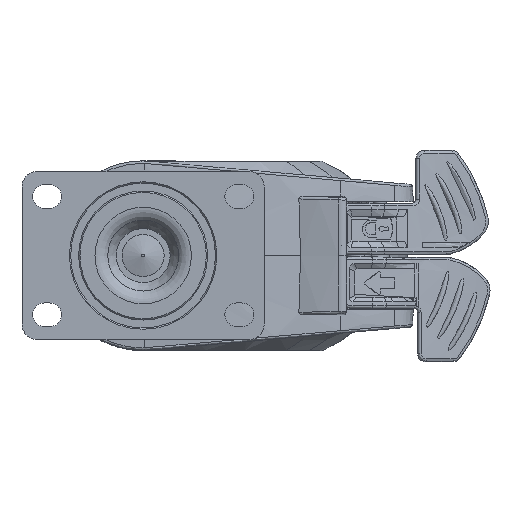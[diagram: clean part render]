
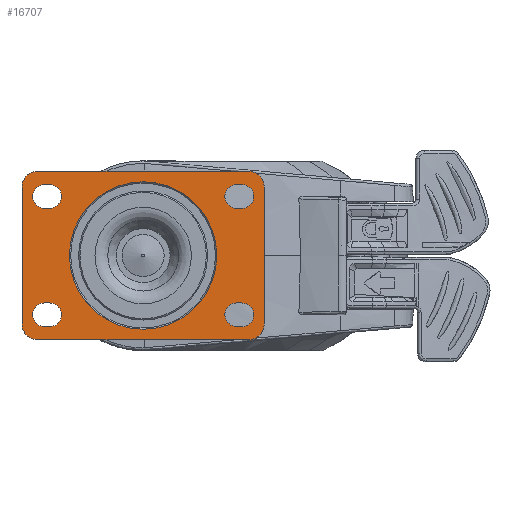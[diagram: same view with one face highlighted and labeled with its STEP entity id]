
A CAD part, top view. The second image highlights one B-rep face of the part: STEP entity #16707.
In plain terms, the highlighted planar face has unit normal (0, 0, 1).
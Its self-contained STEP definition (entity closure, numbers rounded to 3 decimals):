
#10187=LINE('',#124724,#13493);
#10188=LINE('',#124728,#13494);
#10189=LINE('',#124732,#13495);
#10190=LINE('',#124736,#13496);
#10191=LINE('',#124740,#13497);
#10192=LINE('',#124744,#13498);
#10193=LINE('',#124748,#13499);
#10194=LINE('',#124752,#13500);
#10195=LINE('',#124753,#13501);
#10196=LINE('',#124758,#13502);
#10197=LINE('',#124762,#13503);
#10198=LINE('',#124766,#13504);
#13493=VECTOR('',#67468,1.);
#13494=VECTOR('',#67471,1.);
#13495=VECTOR('',#67474,1.);
#13496=VECTOR('',#67477,1.);
#13497=VECTOR('',#67480,1.);
#13498=VECTOR('',#67483,1.);
#13499=VECTOR('',#67486,1.);
#13500=VECTOR('',#67489,1.);
#13501=VECTOR('',#67490,1.);
#13502=VECTOR('',#67493,1.);
#13503=VECTOR('',#67496,1.);
#13504=VECTOR('',#67499,1.);
#16707=ADVANCED_FACE('',(#18750,#18751,#18752,#18753,#18754,#18755),#18199,
 .F.);
#18199=PLANE('',#56902);
#18750=FACE_BOUND('',#21812,.T.);
#18751=FACE_BOUND('',#21813,.T.);
#18752=FACE_BOUND('',#21814,.T.);
#18753=FACE_BOUND('',#21815,.T.);
#18754=FACE_BOUND('',#21816,.T.);
#18755=FACE_BOUND('',#21817,.T.);
#21812=EDGE_LOOP('',(#36553,#36554,#36555,#36556));
#21813=EDGE_LOOP('',(#36557,#36558,#36559,#36560));
#21814=EDGE_LOOP('',(#36561,#36562,#36563,#36564));
#21815=EDGE_LOOP('',(#36565,#36566,#36567,#36568));
#21816=EDGE_LOOP('',(#36569));
#21817=EDGE_LOOP('',(#36570,#36571,#36572,#36573,#36574,#36575,#36576,#36577));
#36553=ORIENTED_EDGE('',*,*,#50923,.T.);
#36554=ORIENTED_EDGE('',*,*,#50924,.T.);
#36555=ORIENTED_EDGE('',*,*,#50925,.T.);
#36556=ORIENTED_EDGE('',*,*,#50926,.F.);
#36557=ORIENTED_EDGE('',*,*,#50927,.T.);
#36558=ORIENTED_EDGE('',*,*,#50928,.F.);
#36559=ORIENTED_EDGE('',*,*,#50929,.T.);
#36560=ORIENTED_EDGE('',*,*,#50930,.T.);
#36561=ORIENTED_EDGE('',*,*,#50931,.T.);
#36562=ORIENTED_EDGE('',*,*,#50932,.F.);
#36563=ORIENTED_EDGE('',*,*,#50933,.T.);
#36564=ORIENTED_EDGE('',*,*,#50934,.T.);
#36565=ORIENTED_EDGE('',*,*,#50935,.T.);
#36566=ORIENTED_EDGE('',*,*,#50936,.T.);
#36567=ORIENTED_EDGE('',*,*,#50937,.T.);
#36568=ORIENTED_EDGE('',*,*,#50938,.F.);
#36569=ORIENTED_EDGE('',*,*,#50921,.F.);
#36570=ORIENTED_EDGE('',*,*,#50939,.F.);
#36571=ORIENTED_EDGE('',*,*,#50940,.F.);
#36572=ORIENTED_EDGE('',*,*,#50941,.T.);
#36573=ORIENTED_EDGE('',*,*,#50942,.F.);
#36574=ORIENTED_EDGE('',*,*,#50943,.T.);
#36575=ORIENTED_EDGE('',*,*,#50944,.F.);
#36576=ORIENTED_EDGE('',*,*,#50945,.F.);
#36577=ORIENTED_EDGE('',*,*,#50946,.F.);
#43159=VERTEX_POINT('',#124716);
#43161=VERTEX_POINT('',#124722);
#43162=VERTEX_POINT('',#124723);
#43163=VERTEX_POINT('',#124725);
#43164=VERTEX_POINT('',#124727);
#43165=VERTEX_POINT('',#124730);
#43166=VERTEX_POINT('',#124731);
#43167=VERTEX_POINT('',#124733);
#43168=VERTEX_POINT('',#124735);
#43169=VERTEX_POINT('',#124738);
#43170=VERTEX_POINT('',#124739);
#43171=VERTEX_POINT('',#124741);
#43172=VERTEX_POINT('',#124743);
#43173=VERTEX_POINT('',#124746);
#43174=VERTEX_POINT('',#124747);
#43175=VERTEX_POINT('',#124749);
#43176=VERTEX_POINT('',#124751);
#43177=VERTEX_POINT('',#124754);
#43178=VERTEX_POINT('',#124755);
#43179=VERTEX_POINT('',#124757);
#43180=VERTEX_POINT('',#124759);
#43181=VERTEX_POINT('',#124761);
#43182=VERTEX_POINT('',#124763);
#43183=VERTEX_POINT('',#124765);
#43184=VERTEX_POINT('',#124767);
#50921=EDGE_CURVE('',#43159,#43159,#53086,.T.);
#50923=EDGE_CURVE('',#43161,#43162,#53088,.T.);
#50924=EDGE_CURVE('',#43162,#43163,#10187,.T.);
#50925=EDGE_CURVE('',#43163,#43164,#53089,.T.);
#50926=EDGE_CURVE('',#43161,#43164,#10188,.T.);
#50927=EDGE_CURVE('',#43165,#43166,#53090,.T.);
#50928=EDGE_CURVE('',#43167,#43166,#10189,.T.);
#50929=EDGE_CURVE('',#43167,#43168,#53091,.T.);
#50930=EDGE_CURVE('',#43168,#43165,#10190,.T.);
#50931=EDGE_CURVE('',#43169,#43170,#53092,.T.);
#50932=EDGE_CURVE('',#43171,#43170,#10191,.T.);
#50933=EDGE_CURVE('',#43171,#43172,#53093,.T.);
#50934=EDGE_CURVE('',#43172,#43169,#10192,.T.);
#50935=EDGE_CURVE('',#43173,#43174,#53094,.T.);
#50936=EDGE_CURVE('',#43174,#43175,#10193,.T.);
#50937=EDGE_CURVE('',#43175,#43176,#53095,.T.);
#50938=EDGE_CURVE('',#43173,#43176,#10194,.T.);
#50939=EDGE_CURVE('',#43177,#43178,#10195,.T.);
#50940=EDGE_CURVE('',#43179,#43177,#53096,.T.);
#50941=EDGE_CURVE('',#43179,#43180,#10196,.T.);
#50942=EDGE_CURVE('',#43181,#43180,#53097,.T.);
#50943=EDGE_CURVE('',#43181,#43182,#10197,.T.);
#50944=EDGE_CURVE('',#43183,#43182,#53098,.T.);
#50945=EDGE_CURVE('',#43184,#43183,#10198,.T.);
#50946=EDGE_CURVE('',#43178,#43184,#53099,.T.);
#53086=CIRCLE('',#56886,28.);
#53088=CIRCLE('',#56890,4.5);
#53089=CIRCLE('',#56891,4.5);
#53090=CIRCLE('',#56892,4.5);
#53091=CIRCLE('',#56893,4.5);
#53092=CIRCLE('',#56894,4.5);
#53093=CIRCLE('',#56895,4.5);
#53094=CIRCLE('',#56896,4.5);
#53095=CIRCLE('',#56897,4.5);
#53096=CIRCLE('',#56898,6.);
#53097=CIRCLE('',#56899,6.);
#53098=CIRCLE('',#56900,6.);
#53099=CIRCLE('',#56901,6.);
#56886=AXIS2_PLACEMENT_3D('',#124715,#67458,#67459);
#56890=AXIS2_PLACEMENT_3D('',#124721,#67466,#67467);
#56891=AXIS2_PLACEMENT_3D('',#124726,#67469,#67470);
#56892=AXIS2_PLACEMENT_3D('',#124729,#67472,#67473);
#56893=AXIS2_PLACEMENT_3D('',#124734,#67475,#67476);
#56894=AXIS2_PLACEMENT_3D('',#124737,#67478,#67479);
#56895=AXIS2_PLACEMENT_3D('',#124742,#67481,#67482);
#56896=AXIS2_PLACEMENT_3D('',#124745,#67484,#67485);
#56897=AXIS2_PLACEMENT_3D('',#124750,#67487,#67488);
#56898=AXIS2_PLACEMENT_3D('',#124756,#67491,#67492);
#56899=AXIS2_PLACEMENT_3D('',#124760,#67494,#67495);
#56900=AXIS2_PLACEMENT_3D('',#124764,#67497,#67498);
#56901=AXIS2_PLACEMENT_3D('',#124768,#67500,#67501);
#56902=AXIS2_PLACEMENT_3D('',#124769,#67502,#67503);
#67458=DIRECTION('',(0.,0.,1.));
#67459=DIRECTION('',(1.,0.,0.));
#67466=DIRECTION('',(0.,0.,-1.));
#67467=DIRECTION('',(1.,0.,0.));
#67468=DIRECTION('',(-1.,0.,0.));
#67469=DIRECTION('',(0.,0.,-1.));
#67470=DIRECTION('',(1.,0.,0.));
#67471=DIRECTION('',(-1.,0.,0.));
#67472=DIRECTION('',(0.,0.,-1.));
#67473=DIRECTION('',(1.,0.,0.));
#67474=DIRECTION('',(1.,0.,0.));
#67475=DIRECTION('',(0.,0.,-1.));
#67476=DIRECTION('',(1.,0.,0.));
#67477=DIRECTION('',(1.,0.,0.));
#67478=DIRECTION('',(0.,0.,-1.));
#67479=DIRECTION('',(1.,0.,0.));
#67480=DIRECTION('',(-1.,0.,0.));
#67481=DIRECTION('',(0.,0.,-1.));
#67482=DIRECTION('',(1.,0.,0.));
#67483=DIRECTION('',(-1.,0.,0.));
#67484=DIRECTION('',(0.,0.,-1.));
#67485=DIRECTION('',(1.,0.,0.));
#67486=DIRECTION('',(1.,0.,0.));
#67487=DIRECTION('',(0.,0.,-1.));
#67488=DIRECTION('',(1.,0.,0.));
#67489=DIRECTION('',(1.,0.,0.));
#67490=DIRECTION('',(1.,0.,0.));
#67491=DIRECTION('',(0.,0.,-1.));
#67492=DIRECTION('',(1.,0.,0.));
#67493=DIRECTION('',(0.,-1.,0.));
#67494=DIRECTION('',(0.,0.,-1.));
#67495=DIRECTION('',(1.,0.,0.));
#67496=DIRECTION('',(1.,0.,0.));
#67497=DIRECTION('',(0.,0.,-1.));
#67498=DIRECTION('',(1.,0.,0.));
#67499=DIRECTION('',(0.,-1.,0.));
#67500=DIRECTION('',(0.,0.,-1.));
#67501=DIRECTION('',(1.,0.,0.));
#67502=DIRECTION('',(0.,0.,-1.));
#67503=DIRECTION('',(-1.,0.,0.));
#124715=CARTESIAN_POINT('',(0.,0.,0.));
#124716=CARTESIAN_POINT('',(28.,0.,0.));
#124721=CARTESIAN_POINT('',(-35.458,22.478,0.));
#124722=CARTESIAN_POINT('',(-35.458,26.978,0.));
#124723=CARTESIAN_POINT('',(-35.458,17.978,0.));
#124724=CARTESIAN_POINT('',(-37.958,17.978,0.));
#124725=CARTESIAN_POINT('',(-37.458,17.978,0.));
#124726=CARTESIAN_POINT('',(-37.458,22.478,0.));
#124727=CARTESIAN_POINT('',(-37.458,26.978,0.));
#124728=CARTESIAN_POINT('',(-37.958,26.978,0.));
#124729=CARTESIAN_POINT('',(-35.458,-22.522,0.));
#124730=CARTESIAN_POINT('',(-35.458,-18.022,0.));
#124731=CARTESIAN_POINT('',(-35.458,-27.022,0.));
#124732=CARTESIAN_POINT('',(-37.958,-27.022,0.));
#124733=CARTESIAN_POINT('',(-37.458,-27.022,0.));
#124734=CARTESIAN_POINT('',(-37.458,-22.522,0.));
#124735=CARTESIAN_POINT('',(-37.458,-18.022,0.));
#124736=CARTESIAN_POINT('',(-37.958,-18.022,0.));
#124737=CARTESIAN_POINT('',(35.542,22.478,0.));
#124738=CARTESIAN_POINT('',(35.542,17.978,0.));
#124739=CARTESIAN_POINT('',(35.542,26.978,0.));
#124740=CARTESIAN_POINT('',(38.042,26.978,0.));
#124741=CARTESIAN_POINT('',(37.542,26.978,0.));
#124742=CARTESIAN_POINT('',(37.542,22.478,0.));
#124743=CARTESIAN_POINT('',(37.542,17.978,0.));
#124744=CARTESIAN_POINT('',(38.042,17.978,0.));
#124745=CARTESIAN_POINT('',(35.542,-22.522,0.));
#124746=CARTESIAN_POINT('',(35.542,-27.022,0.));
#124747=CARTESIAN_POINT('',(35.542,-18.022,0.));
#124748=CARTESIAN_POINT('',(38.042,-18.022,0.));
#124749=CARTESIAN_POINT('',(37.542,-18.022,0.));
#124750=CARTESIAN_POINT('',(37.542,-22.522,0.));
#124751=CARTESIAN_POINT('',(37.542,-27.022,0.));
#124752=CARTESIAN_POINT('',(38.042,-27.022,0.));
#124753=CARTESIAN_POINT('',(32.,32.,0.));
#124754=CARTESIAN_POINT('',(-40.,32.,0.));
#124755=CARTESIAN_POINT('',(40.,32.,0.));
#124756=CARTESIAN_POINT('',(-40.,26.,0.));
#124757=CARTESIAN_POINT('',(-46.,26.,0.));
#124758=CARTESIAN_POINT('',(-46.,28.,0.));
#124759=CARTESIAN_POINT('',(-46.,-26.,0.));
#124760=CARTESIAN_POINT('',(-40.,-26.,0.));
#124761=CARTESIAN_POINT('',(-40.,-32.,0.));
#124762=CARTESIAN_POINT('',(32.,-32.,0.));
#124763=CARTESIAN_POINT('',(40.,-32.,0.));
#124764=CARTESIAN_POINT('',(40.,-26.,0.));
#124765=CARTESIAN_POINT('',(46.,-26.,0.));
#124766=CARTESIAN_POINT('',(46.,28.,0.));
#124767=CARTESIAN_POINT('',(46.,26.,0.));
#124768=CARTESIAN_POINT('',(40.,26.,0.));
#124769=CARTESIAN_POINT('',(32.,28.,0.));
